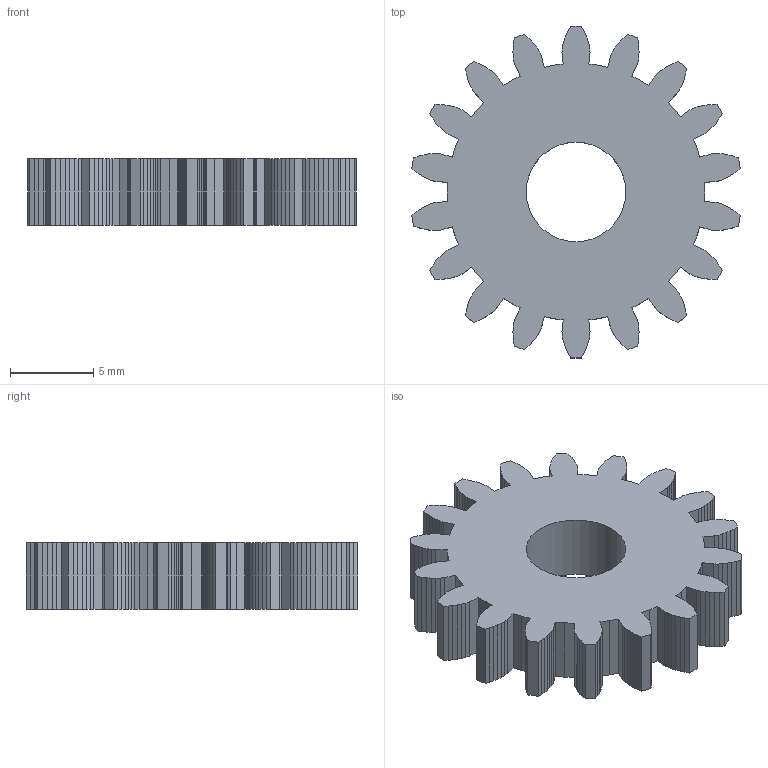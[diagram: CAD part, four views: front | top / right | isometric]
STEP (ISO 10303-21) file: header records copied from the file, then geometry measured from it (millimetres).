
FILE_DESCRIPTION(('Open CASCADE Model'),'2;1');
FILE_NAME('Open CASCADE Shape Model','2026-11-23T18:10:06',('Author'),( 'Open CASCADE'),'Open CASCADE STEP processor 8.0','build123d', 'Unknown');
FILE_SCHEMA(('AUTOMOTIVE_DESIGN { 1 0 10303 214 1 1 1 1 }'));
Length unit declared in the file: millimetre
Products named in the file (1): SOLID
Bounding box: 19.8 x 19.99 x 4 mm (x, y, z)
Volume: 869.1 mm3; surface area: 983.2 mm2
Topology: 1 solids, 1 shells, 309 faces, 921 edges, 614 vertices
Faces by surface type: plane 308, cylinder 1
Full cylindrical faces by diameter (mm): 6 x1
Entity records: 22144 total; most frequent: CARTESIAN_POINT 3687, DIRECTION 3385, LINE 2759, VECTOR 2759, ORIENTED_EDGE 1842, PCURVE 1842, DEFINITIONAL_REPRESENTATION 1842, EDGE_CURVE 921
